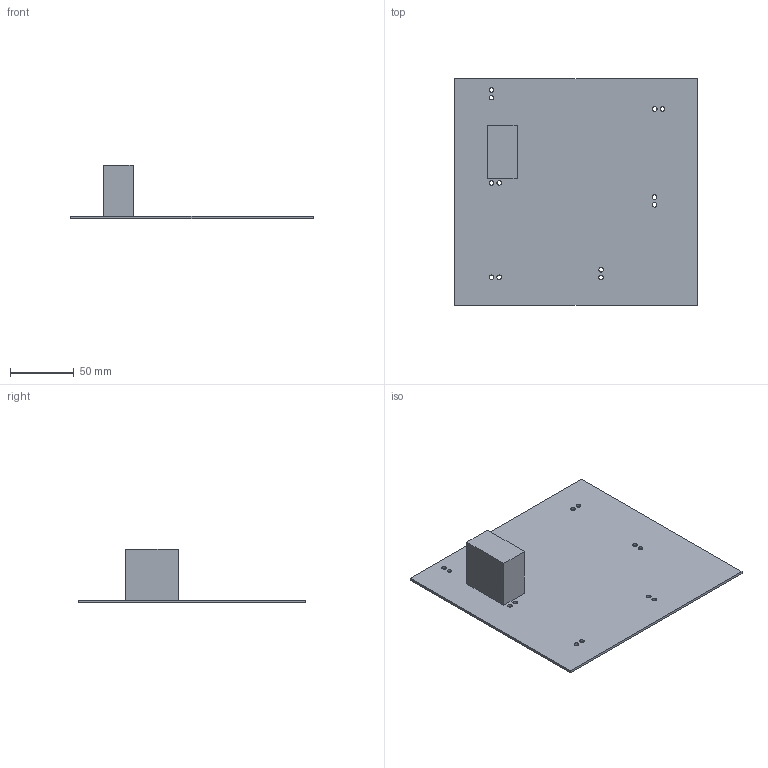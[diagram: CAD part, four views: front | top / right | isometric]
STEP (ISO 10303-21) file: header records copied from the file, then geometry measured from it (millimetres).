
FILE_DESCRIPTION(/* description */ (''),/* implementation_level */ '2;1');
FILE_NAME(/* name */ '9.electronics#9.1#la-dbdy',/* time_stamp */ '2014-12-01T20:18:44+01:00',/* author */ (''),/* organization */ (''),/* preprocessor_version */ 'ST-DEVELOPER v14',/* originating_system */ '',/* authorisation */ '');
FILE_SCHEMA (('AUTOMOTIVE_DESIGN'));
Length unit declared in the file: millimetre
Products named in the file (1): Document
Bounding box: 190.5 x 177.8 x 42.26 mm (x, y, z)
Volume: 105458 mm3; surface area: 74395 mm2
Topology: 1 solids, 1 shells, 35 faces, 96 edges, 64 vertices
Faces by surface type: bspline 24, plane 11
Entity records: 2599 total; most frequent: CARTESIAN_POINT 1377, ORIENTED_EDGE 192, PCURVE 192, DEFINITIONAL_REPRESENTATION 192, B_SPLINE_CURVE_WITH_KNOTS 168, SURFACE_CURVE 96, EDGE_CURVE 96, VERTEX_POINT 64
